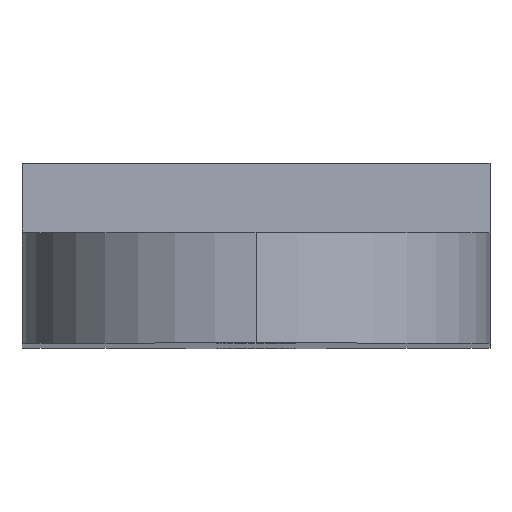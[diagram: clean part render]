
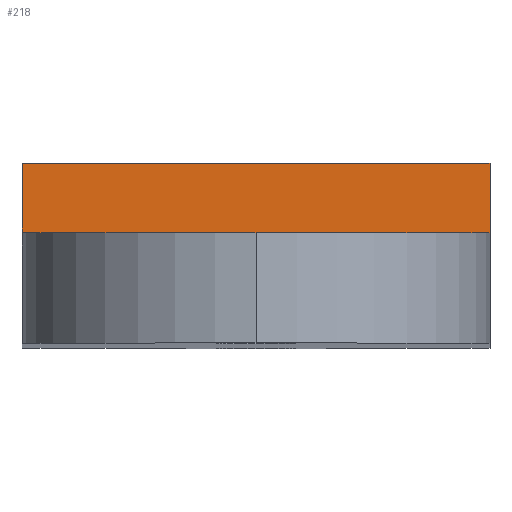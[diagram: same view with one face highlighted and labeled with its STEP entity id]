
A CAD part, top view. The second image highlights one B-rep face of the part: STEP entity #218.
In plain terms, the highlighted planar face has unit normal (0, 0, 1).
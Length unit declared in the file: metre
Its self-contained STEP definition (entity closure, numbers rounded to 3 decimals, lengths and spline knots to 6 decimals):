
#76=ORIENTED_EDGE('',*,*,#112,.T.);
#77=ORIENTED_EDGE('',*,*,#101,.F.);
#78=ORIENTED_EDGE('',*,*,#113,.F.);
#79=ORIENTED_EDGE('',*,*,#89,.T.);
#89=EDGE_CURVE('',#118,#117,#137,.T.);
#101=EDGE_CURVE('',#126,#127,#145,.T.);
#112=EDGE_CURVE('',#117,#127,#148,.T.);
#113=EDGE_CURVE('',#118,#126,#149,.T.);
#117=VERTEX_POINT('',#331);
#118=VERTEX_POINT('',#333);
#126=VERTEX_POINT('',#355);
#127=VERTEX_POINT('',#357);
#137=LINE('',#332,#153);
#145=LINE('',#356,#161);
#148=LINE('',#379,#164);
#149=LINE('',#382,#165);
#153=VECTOR('',#264,1.);
#161=VECTOR('',#286,1.);
#164=VECTOR('',#315,1.);
#165=VECTOR('',#320,1.);
#181=EDGE_LOOP('',(#76,#77,#78,#79));
#199=FACE_BOUND('',#181,.T.);
#206=PLANE('',#255);
#218=ADVANCED_FACE('',(#199),#206,.F.);
#255=AXIS2_PLACEMENT_3D('',#381,#318,#319);
#264=DIRECTION('',(0.,-1.,0.));
#286=DIRECTION('',(0.,-1.,0.));
#315=DIRECTION('',(1.,0.,0.));
#318=DIRECTION('',(0.,0.,-1.));
#319=DIRECTION('',(0.,1.,0.));
#320=DIRECTION('',(1.,0.,0.));
#331=CARTESIAN_POINT('',(0.,0.0042,-0.09906));
#332=CARTESIAN_POINT('',(0.,0.007,-0.09906));
#333=CARTESIAN_POINT('',(0.,0.007,-0.09906));
#355=CARTESIAN_POINT('',(0.0178,0.007,-0.09906));
#356=CARTESIAN_POINT('',(0.0178,0.007,-0.09906));
#357=CARTESIAN_POINT('',(0.0178,0.0042,-0.09906));
#379=CARTESIAN_POINT('',(0.0089,0.0042,-0.09906));
#381=CARTESIAN_POINT('',(0.0089,0.007,-0.09906));
#382=CARTESIAN_POINT('',(0.0089,0.007,-0.09906));
